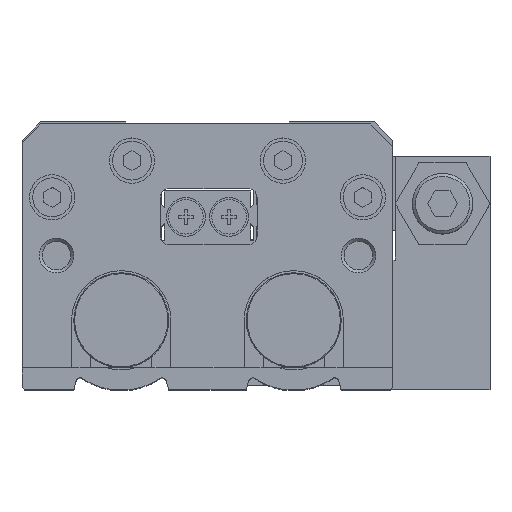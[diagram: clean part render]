
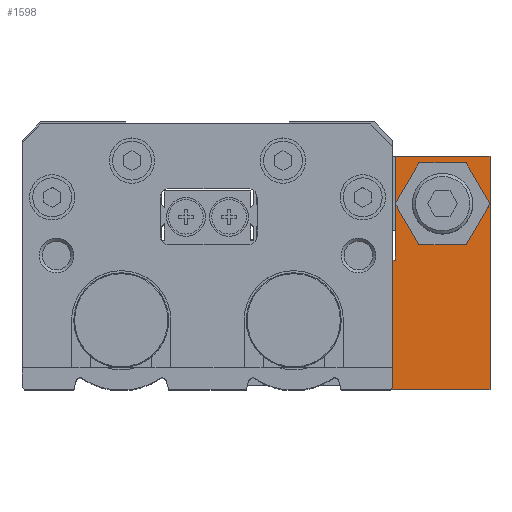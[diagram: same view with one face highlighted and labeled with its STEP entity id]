
A CAD part, top view. The second image highlights one B-rep face of the part: STEP entity #1598.
In plain terms, the highlighted planar face has unit normal (0, 0, 1) as drawn and (0, 0, -1) by its records, which use the part's own axes.
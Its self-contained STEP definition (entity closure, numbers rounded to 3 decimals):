
#1598 = ADVANCED_FACE( '', ( #3490, #3491 ), #3492, .F. );
#3490 = FACE_BOUND( '', #5611, .T. );
#3491 = FACE_OUTER_BOUND( '', #5612, .T. );
#3492 = PLANE( '', #5613 );
#5611 = EDGE_LOOP( '', ( #9863, #9864, #9865, #9866, #9867, #9868 ) );
#5612 = EDGE_LOOP( '', ( #9869, #9870, #9871, #9872, #9873, #9874 ) );
#5613 = AXIS2_PLACEMENT_3D( '', #9875, #9876, #9877 );
#9863 = ORIENTED_EDGE( '', *, *, #11679, .T. );
#9864 = ORIENTED_EDGE( '', *, *, #11843, .T. );
#9865 = ORIENTED_EDGE( '', *, *, #12319, .T. );
#9866 = ORIENTED_EDGE( '', *, *, #11588, .T. );
#9867 = ORIENTED_EDGE( '', *, *, #12309, .T. );
#9868 = ORIENTED_EDGE( '', *, *, #13102, .T. );
#9869 = ORIENTED_EDGE( '', *, *, #12961, .F. );
#9870 = ORIENTED_EDGE( '', *, *, #13100, .F. );
#9871 = ORIENTED_EDGE( '', *, *, #12229, .F. );
#9872 = ORIENTED_EDGE( '', *, *, #13103, .F. );
#9873 = ORIENTED_EDGE( '', *, *, #13104, .F. );
#9874 = ORIENTED_EDGE( '', *, *, #12773, .F. );
#9875 = CARTESIAN_POINT( '', ( 0., 0., -8. ) );
#9876 = DIRECTION( '', ( 0., 0., 1. ) );
#9877 = DIRECTION( '', ( 1., 0., 0. ) );
#11588 = EDGE_CURVE( '', #13670, #13671, #13672, .T. );
#11679 = EDGE_CURVE( '', #13827, #13828, #13829, .T. );
#11843 = EDGE_CURVE( '', #13828, #14114, #14115, .T. );
#12229 = EDGE_CURVE( '', #14751, #14752, #14753, .T. );
#12309 = EDGE_CURVE( '', #13671, #14876, #14877, .T. );
#12319 = EDGE_CURVE( '', #14114, #13670, #14890, .T. );
#12773 = EDGE_CURVE( '', #15560, #15561, #15562, .T. );
#12961 = EDGE_CURVE( '', #15828, #15560, #15829, .T. );
#13100 = EDGE_CURVE( '', #14752, #15828, #16006, .T. );
#13102 = EDGE_CURVE( '', #14876, #13827, #16008, .T. );
#13103 = EDGE_CURVE( '', #16009, #14751, #16010, .T. );
#13104 = EDGE_CURVE( '', #15561, #16009, #16011, .T. );
#13670 = VERTEX_POINT( '', #16710 );
#13671 = VERTEX_POINT( '', #16711 );
#13672 = LINE( '', #16712, #16713 );
#13827 = VERTEX_POINT( '', #16923 );
#13828 = VERTEX_POINT( '', #16924 );
#13829 = LINE( '', #16925, #16926 );
#14114 = VERTEX_POINT( '', #17314 );
#14115 = LINE( '', #17315, #17316 );
#14751 = VERTEX_POINT( '', #18177 );
#14752 = VERTEX_POINT( '', #18178 );
#14753 = LINE( '', #18179, #18180 );
#14876 = VERTEX_POINT( '', #18346 );
#14877 = LINE( '', #18347, #18348 );
#14890 = LINE( '', #18367, #18368 );
#15560 = VERTEX_POINT( '', #19294 );
#15561 = VERTEX_POINT( '', #19295 );
#15562 = LINE( '', #19296, #19297 );
#15828 = VERTEX_POINT( '', #19661 );
#15829 = LINE( '', #19662, #19663 );
#16006 = LINE( '', #19908, #19909 );
#16008 = LINE( '', #19911, #19912 );
#16009 = VERTEX_POINT( '', #19913 );
#16010 = LINE( '', #19914, #19915 );
#16011 = LINE( '', #19916, #19917 );
#16710 = CARTESIAN_POINT( '', ( -16.485, 1.5, -8. ) );
#16711 = CARTESIAN_POINT( '', ( -5.515, 1.5, -8. ) );
#16712 = CARTESIAN_POINT( '', ( -16.485, 1.5, -8. ) );
#16713 = VECTOR( '', #20538, 1000. );
#16923 = CARTESIAN_POINT( '', ( -5.515, 20.5, -8. ) );
#16924 = CARTESIAN_POINT( '', ( -16.485, 20.5, -8. ) );
#16925 = CARTESIAN_POINT( '', ( -5.515, 20.5, -8. ) );
#16926 = VECTOR( '', #20648, 1000. );
#17314 = CARTESIAN_POINT( '', ( -21.97, 11., -8. ) );
#17315 = CARTESIAN_POINT( '', ( -16.485, 20.5, -8. ) );
#17316 = VECTOR( '', #20833, 1000. );
#18177 = CARTESIAN_POINT( '', ( 0., 0., -8. ) );
#18178 = CARTESIAN_POINT( '', ( 0., 54., -8. ) );
#18179 = CARTESIAN_POINT( '', ( 0., 0., -8. ) );
#18180 = VECTOR( '', #21308, 1000. );
#18346 = CARTESIAN_POINT( '', ( -0.03, 11., -8. ) );
#18347 = CARTESIAN_POINT( '', ( -5.515, 1.5, -8. ) );
#18348 = VECTOR( '', #21394, 1000. );
#18367 = CARTESIAN_POINT( '', ( -21.97, 11., -8. ) );
#18368 = VECTOR( '', #21401, 1000. );
#19294 = CARTESIAN_POINT( '', ( -24., 24., -8. ) );
#19295 = CARTESIAN_POINT( '', ( -22., 24., -8. ) );
#19296 = CARTESIAN_POINT( '', ( -24., 24., -8. ) );
#19297 = VECTOR( '', #21859, 1000. );
#19661 = CARTESIAN_POINT( '', ( -24., 54., -8. ) );
#19662 = CARTESIAN_POINT( '', ( -24., 54., -8. ) );
#19663 = VECTOR( '', #22036, 1000. );
#19908 = CARTESIAN_POINT( '', ( 0., 54., -8. ) );
#19909 = VECTOR( '', #22150, 1000. );
#19911 = CARTESIAN_POINT( '', ( -0.03, 11., -8. ) );
#19912 = VECTOR( '', #22151, 1000. );
#19913 = CARTESIAN_POINT( '', ( -22., 0., -8. ) );
#19914 = CARTESIAN_POINT( '', ( -22., 0., -8. ) );
#19915 = VECTOR( '', #22152, 1000. );
#19916 = CARTESIAN_POINT( '', ( -22., 24., -8. ) );
#19917 = VECTOR( '', #22153, 1000. );
#20538 = DIRECTION( '', ( 1., 0., 0. ) );
#20648 = DIRECTION( '', ( -1., 0., 0. ) );
#20833 = DIRECTION( '', ( -0.5, -0.866, 0. ) );
#21308 = DIRECTION( '', ( 0., 1., 0. ) );
#21394 = DIRECTION( '', ( 0.5, 0.866, 0. ) );
#21401 = DIRECTION( '', ( 0.5, -0.866, 0. ) );
#21859 = DIRECTION( '', ( 1., 0., 0. ) );
#22036 = DIRECTION( '', ( 0., -1., 0. ) );
#22150 = DIRECTION( '', ( -1., 0., 0. ) );
#22151 = DIRECTION( '', ( -0.5, 0.866, 0. ) );
#22152 = DIRECTION( '', ( 1., 0., 0. ) );
#22153 = DIRECTION( '', ( 0., -1., 0. ) );
